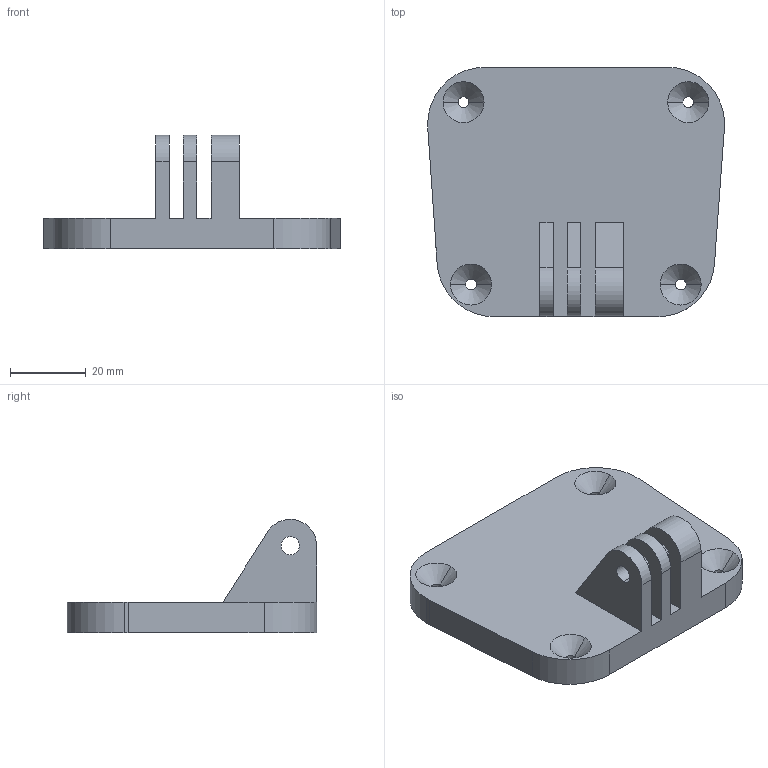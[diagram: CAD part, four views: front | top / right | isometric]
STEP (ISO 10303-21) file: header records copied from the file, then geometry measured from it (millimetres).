
FILE_DESCRIPTION (( 'STEP AP203' ), '1' );
FILE_NAME ('arka kapak.STEP', '2016-11-03T14:13:10', ( '' ), ( '' ), 'SwSTEP 2.0', 'SolidWorks 2015', '' );
FILE_SCHEMA (( 'CONFIG_CONTROL_DESIGN' ));
Length unit declared in the file: millimetre
Products named in the file (1): arka kapak
Bounding box: 78.56 x 66 x 30 mm (x, y, z)
Volume: 24657.4 mm3; surface area: 16564.8 mm2
Topology: 1 solids, 1 shells, 94 faces, 244 edges, 160 vertices
Faces by surface type: cylinder 45, plane 41, cone 8
Entity records: 3007 total; most frequent: DIRECTION 532, CARTESIAN_POINT 499, ORIENTED_EDGE 488, EDGE_CURVE 244, AXIS2_PLACEMENT_3D 193, VERTEX_POINT 160, LINE 146, VECTOR 146
